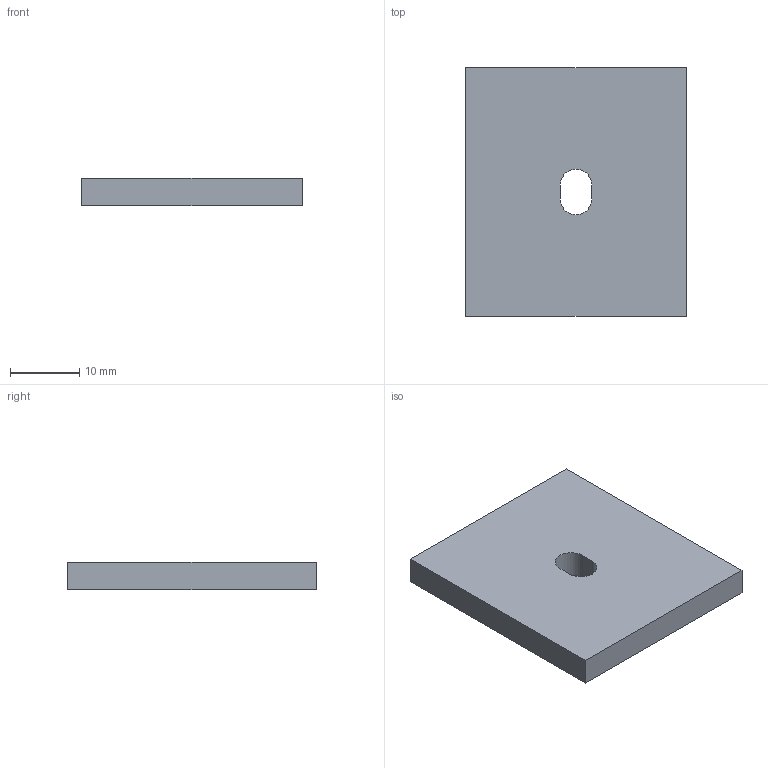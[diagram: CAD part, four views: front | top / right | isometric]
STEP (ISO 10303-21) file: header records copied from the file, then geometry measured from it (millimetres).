
FILE_DESCRIPTION(('Open CASCADE Model'),'2;1');
FILE_NAME('Open CASCADE Shape Model','2026-10-13T11:47:36',('Author'),( 'Open CASCADE'),'Open CASCADE STEP processor 7.8','Open CASCADE 7.8' ,'Unknown');
FILE_SCHEMA(('AUTOMOTIVE_DESIGN { 1 0 10303 214 1 1 1 1 }'));
Length unit declared in the file: millimetre
Products named in the file (1): Open CASCADE STEP translator 7.8 22
Bounding box: 32 x 36 x 4 mm (x, y, z)
Volume: 4504.7 mm3; surface area: 2870.2 mm2
Topology: 1 solids, 1 shells, 10 faces, 24 edges, 16 vertices
Faces by surface type: plane 8, cylinder 2
Entity records: 622 total; most frequent: CARTESIAN_POINT 131, DIRECTION 86, LINE 56, VECTOR 56, ORIENTED_EDGE 48, PCURVE 48, DEFINITIONAL_REPRESENTATION 48, EDGE_CURVE 24
